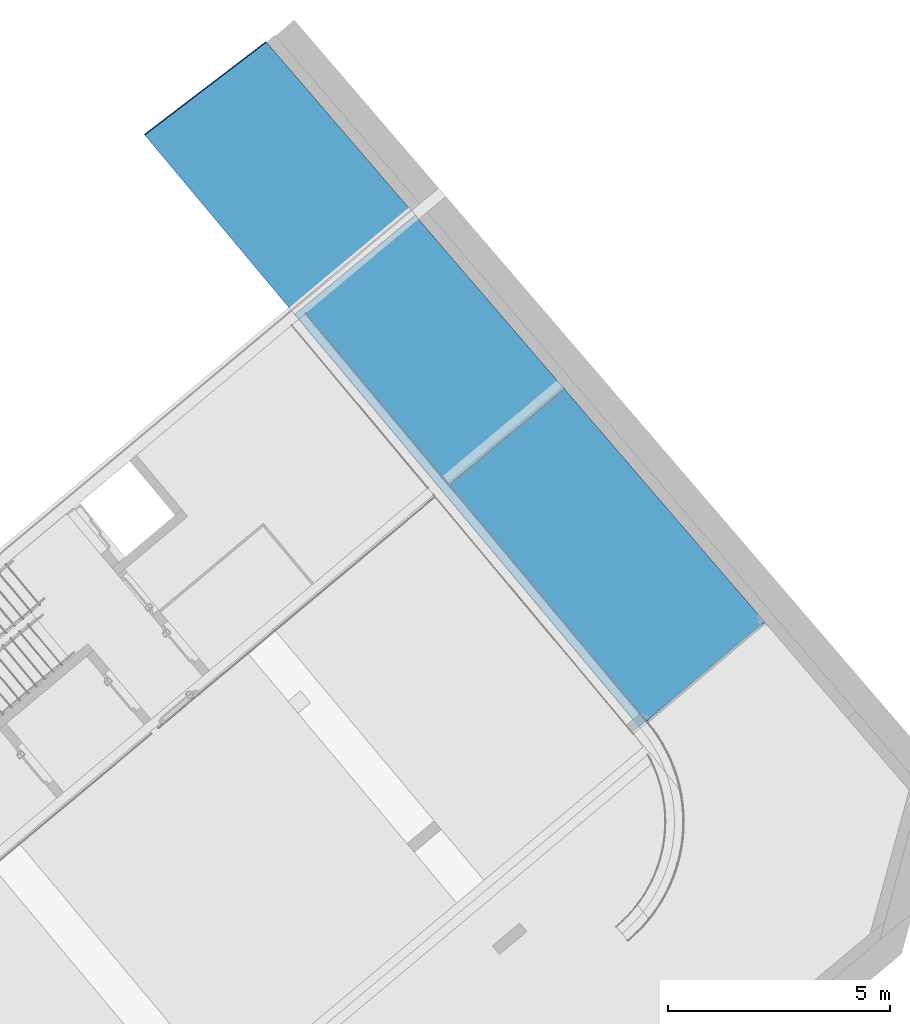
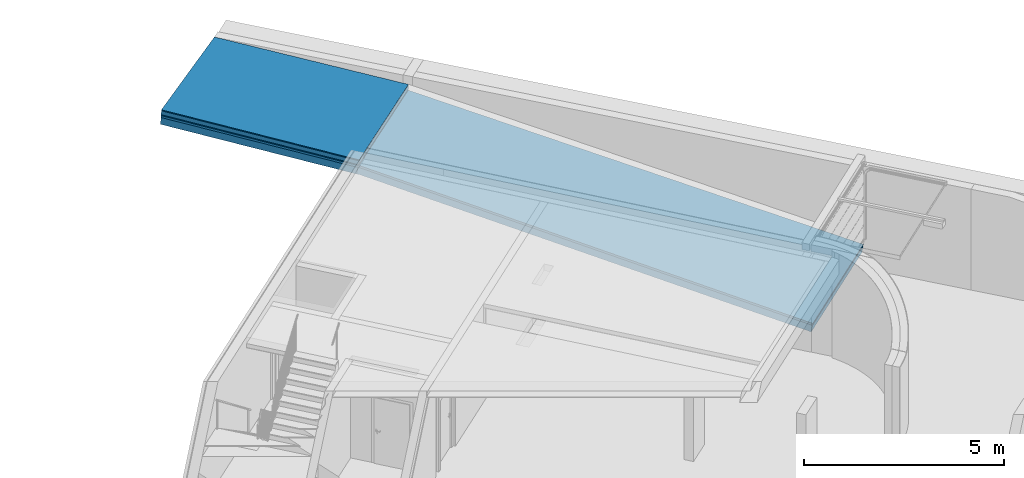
# One storey, part 13 of 17: 7 building element parts, 2 elements without a shape of their own.
"""IFC4 building model written with IfcOpenShell, lengths in metres."""

from ifc_helpers import new_model, entity, si_unit, converted_unit, derived_unit, direction, frame, origin_with_axes, place, context, subcontext, project, spatial, polygons, material, type_object, element, aggregate, save


model = new_model("IFC4")

# Units and contexts
model_context = context("Model", 3, precision=1e-05, world=origin_with_axes(), true_north=direction((0.0, 1.0)))
body_context = subcontext(model_context, "Body", "Model", "MODEL_VIEW")
ifc_project = project(units=[si_unit("LENGTHUNIT", "METRE"), si_unit("AREAUNIT", "SQUARE_METRE"), si_unit("VOLUMEUNIT", "CUBIC_METRE"), converted_unit("PLANEANGLEUNIT", "DEGREE", entity("IfcPlaneAngleMeasure", 0.0174532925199), si_unit("PLANEANGLEUNIT", "RADIAN"), dimensions=[0, 0, 0, 0, 0, 0, 0]), converted_unit("TIMEUNIT", "Year", entity("IfcTimeMeasure", 31556926.0), si_unit("TIMEUNIT", "SECOND"), dimensions=[0, 0, 1, 0, 0, 0, 0]), si_unit("MASSUNIT", "GRAM", prefix="KILO"), si_unit("THERMODYNAMICTEMPERATUREUNIT", "DEGREE_CELSIUS"), si_unit("LUMINOUSINTENSITYUNIT", "LUMEN"), si_unit("ENERGYUNIT", "JOULE", prefix="MEGA"), derived_unit("THERMALCONDUCTANCEUNIT", [(si_unit("POWERUNIT", "WATT"), 1), (si_unit("LENGTHUNIT", "METRE"), -1), (si_unit("THERMODYNAMICTEMPERATUREUNIT", "KELVIN"), -1)]), derived_unit("SPECIFICHEATCAPACITYUNIT", [(si_unit("ENERGYUNIT", "JOULE"), 1), (si_unit("MASSUNIT", "GRAM", prefix="KILO"), -1), (si_unit("THERMODYNAMICTEMPERATUREUNIT", "KELVIN"), -1)]), derived_unit("MASSDENSITYUNIT", [(si_unit("MASSUNIT", "GRAM", prefix="KILO"), 1), (si_unit("VOLUMEUNIT", "CUBIC_METRE"), -1)])], contexts=[model_context])

# Site, building, storey
site_placement = place(None, frame((-0.00153261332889, -0.00661245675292, 0.0), z_axis=(0.0, 0.0, 1.0), x_axis=(1.0, 0.0, 0.0)))
site = spatial("IfcSite", under=ifc_project, at=site_placement, Name="Site", CompositionType="ELEMENT")
building_placement = place(site_placement, origin_with_axes())
building = spatial("IfcBuilding", under=site, at=building_placement, Name="Building", CompositionType="ELEMENT")
storey_placement = place(building_placement, frame((0.0, 0.0, -3.3), z_axis=(0.0, 0.0, 1.0), x_axis=(1.0, 0.0, 0.0)))
storey = spatial("IfcBuildingStorey", under=building, at=storey_placement, Name="UG1", CompositionType="ELEMENT", Elevation=-3.3)

# Ramp, building element parts
ramp_type = type_object("IfcRampType", Name="Rampe Neu 450", PredefinedType="NOTDEFINED")
ramp_1_placement = place(storey_placement, frame((5.32656928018, 30.3558567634, 2.37561258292), z_axis=(0.0, 0.0, 1.0), x_axis=(0.772442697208, 0.635084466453, 0.0)))
ramp_1 = element("IfcRamp", 1, at=ramp_1_placement, inside=storey, type_object=ramp_type, Name="Dach-001", PredefinedType="NOTDEFINED")
ifc_material_1 = material(Name="XPS")
building_element_part_1_placement = place(ramp_1_placement, origin_with_axes())
building_element_part_1 = element("IfcBuildingElementPart", 2, at=building_element_part_1_placement, material=ifc_material_1, Name="XPS", PredefinedType="NOTDEFINED", context=body_context, shape_type="Tessellation", body=[
    polygons([(3.51367081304, 0.0281581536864, 0.277825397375), (3.51364023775, 0.0375442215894, 0.218564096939), (3.51420774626, 0.0118246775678, 0.214490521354), (3.51409766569, 0.00881314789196, 0.274761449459), (3.51377557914, 0.0281581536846, 0.277825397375), (3.51377557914, 0.037544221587, 0.218564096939), (3.77682829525, -12.0567884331, -1.69699001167), (0.0964259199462, -12.0858005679, -1.70158508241), (-7.17183219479e-08, 0.0375442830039, 0.218564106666), (0.000209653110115, 0.0375442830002, 0.218564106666), (0.000420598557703, 0.0115065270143, 0.214440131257), (0.000310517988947, 0.00849499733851, 0.274711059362), (0.000151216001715, 0.0281582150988, 0.277825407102), (-7.17183255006e-08, 0.0281582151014, 0.277825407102), (0.0964259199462, -12.0951866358, -1.64232378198), (3.77682829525, -12.066174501, -1.63772871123)], [[[1, 2, 3, 4]], [[2, 1, 5, 6]], [[3, 2, 6, 7, 8, 9, 10, 11]], [[4, 3, 11, 12]], [[12, 13, 14, 15, 16, 5, 1, 4]], [[7, 6, 5, 16]], [[8, 7, 16, 15]], [[9, 8, 15, 14]], [[10, 9, 14, 13]], [[11, 10, 13, 12]]], closed=True),
])
ifc_material_2 = material(Name="Stahlbeton Decke")
building_element_part_2_placement = place(ramp_1_placement, origin_with_axes())
building_element_part_2 = element("IfcBuildingElementPart", 3, at=building_element_part_2_placement, material=ifc_material_2, Name="Stahlbeton Decke", PredefinedType="NOTDEFINED", context=body_context, shape_type="Tessellation", body=[
    polygons([(3.51420774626, 0.0118246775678, 0.214490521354), (3.51364023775, 0.0375442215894, 0.218564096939), (3.51353322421, 0.0703954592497, 0.0111495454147), (3.51459302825, 0.0223650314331, 0.00354227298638), (0.000420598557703, 0.0115065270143, 0.214440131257), (0.000209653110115, 0.0375442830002, 0.218564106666), (-7.17183219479e-08, 0.0375442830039, 0.218564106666), (0.0964259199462, -12.0858005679, -1.70158508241), (3.77682829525, -12.0567884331, -1.69699001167), (3.51377557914, 0.037544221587, 0.218564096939), (3.51377557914, 0.0703954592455, 0.011149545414), (0.000805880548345, 0.0220468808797, 0.00349188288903), (3.77682829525, -12.0239371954, -1.90440456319), (0.0964259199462, -12.0529493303, -1.90899963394), (-7.17183219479e-08, 0.0703955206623, 0.0111495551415), (0.000414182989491, 0.0703955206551, 0.0111495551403)], [[[1, 2, 3, 4]], [[1, 5, 6, 7, 8, 9, 10, 2]], [[11, 3, 2, 10]], [[12, 4, 3, 11, 13, 14, 15, 16]], [[5, 1, 4, 12]], [[5, 12, 16, 6]], [[6, 16, 15, 7]], [[8, 7, 15, 14]], [[9, 8, 14, 13]], [[10, 9, 13, 11]]], closed=True),
])
aggregate(ramp_1, [building_element_part_1, building_element_part_2])

ramp_2_placement = place(storey_placement, frame((1.94447080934, 34.4041497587, 2.63327259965), z_axis=(0.0, 0.0, 1.0), x_axis=(0.795125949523, 0.606444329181, 0.0)))
ramp_2 = element("IfcRamp", 4, at=ramp_2_placement, inside=storey, type_object=ramp_type, Name="Dach-001", PredefinedType="NOTDEFINED")
ifc_material_3 = material(Name="Asphalt")
building_element_part_3_placement = place(ramp_2_placement, origin_with_axes())
building_element_part_3 = element("IfcBuildingElementPart", 5, at=building_element_part_3_placement, material=ifc_material_3, Name="Asphalt", PredefinedType="NOTDEFINED", context=body_context, shape_type="Tessellation", body=[
    polygons([(0.234129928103, -5.26899043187, 0.167728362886), (3.74556037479, -5.14031860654, 0.167778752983), (3.74556037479, -5.14160378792, 0.193482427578), (0.234129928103, -5.26995725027, 0.187064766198), (3.74536069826, -5.13691496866, 0.168318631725), (0.233963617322, -5.26526714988, 0.168318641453), (3.74533169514, -5.13618652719, 0.163715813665), (3.44555025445, 0.00149812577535, 0.420599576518), (3.44555025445, 0.0, 0.450562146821), (0.0, 0.0, 0.450562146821), (0.0, 0.00149812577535, 0.420599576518), (0.233910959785, -5.26353043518, 0.157348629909)], [[[1, 2, 3, 4]], [[5, 2, 1, 6]], [[5, 7, 8, 9, 3, 2]], [[4, 3, 9, 10]], [[6, 1, 4, 10, 11, 12]], [[7, 5, 6, 12]], [[7, 12, 11, 8]], [[10, 9, 8, 11]]], closed=True),
])
building_element_part_4_placement = place(ramp_2_placement, origin_with_axes())
building_element_part_4 = element("IfcBuildingElementPart", 6, at=building_element_part_4_placement, material=ifc_material_2, Name="Stahlbeton Decke", PredefinedType="NOTDEFINED", context=body_context, shape_type="Tessellation", body=[
    polygons([(0.234129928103, -5.26296335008, 0.0471865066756), (3.74556037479, -5.13429152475, 0.0472368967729), (3.74556037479, -5.14010566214, 0.163519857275), (0.234129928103, -5.26845912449, 0.157102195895), (3.74461386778, -5.11815759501, 0.049796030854), (0.233394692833, -5.24650327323, 0.0497960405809), (3.7445805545, -5.11732089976, 0.0445091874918), (3.44555025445, 0.00749062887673, 0.300749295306), (3.44555025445, 0.00149812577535, 0.420599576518), (0.0, 0.00149812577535, 0.420599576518), (0.0, 0.00749062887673, 0.300749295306), (0.23333875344, -5.2446583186, 0.0381423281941)], [[[1, 2, 3, 4]], [[5, 2, 1, 6]], [[5, 7, 8, 9, 3, 2]], [[9, 10, 4, 3]], [[6, 1, 4, 10, 11, 12]], [[7, 5, 6, 12]], [[7, 12, 11, 8]], [[8, 11, 10, 9]]], closed=True),
])
ifc_material_4 = material(Name="Sperrschicht")
building_element_part_5_placement = place(ramp_2_placement, origin_with_axes())
building_element_part_5 = element("IfcBuildingElementPart", 7, at=building_element_part_5_placement, material=ifc_material_4, Name="Sperrschicht", PredefinedType="NOTDEFINED", context=body_context, shape_type="Tessellation", body=[
    polygons([(0.234129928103, -5.26096849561, 0.0072893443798), (0.234129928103, -5.26246662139, 0.0372519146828), (0.0, 0.00749062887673, 0.300749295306), (0.0, 0.00898875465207, 0.270786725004), (3.74556037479, -5.13261503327, 0.0137070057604), (3.74556037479, -5.13411315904, 0.0436695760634), (3.44555025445, 0.00749062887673, 0.300749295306), (3.44555025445, 0.00898875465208, 0.270786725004)], [[[1, 2, 3, 4]], [[5, 6, 2, 1]], [[3, 2, 6, 7]], [[4, 3, 7, 8]], [[4, 8, 5, 1]], [[8, 7, 6, 5]]], closed=True),
])
building_element_part_6_placement = place(ramp_2_placement, origin_with_axes())
building_element_part_6 = element("IfcBuildingElementPart", 8, at=building_element_part_6_placement, material=ifc_material_1, Name="XPS", PredefinedType="NOTDEFINED", context=body_context, shape_type="Tessellation", body=[
    polygons([(0.0, 0.0119850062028, 0.210861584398), (0.234129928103, -5.25797224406, -0.0526357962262), (0.234129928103, -5.26096849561, 0.0072893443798), (0.0, 0.00898875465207, 0.270786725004), (3.44555025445, 0.0119850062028, 0.210861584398), (3.74556037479, -5.12961878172, -0.0462181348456), (3.74556037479, -5.13261503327, 0.0137070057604), (3.44555025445, 0.00898875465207, 0.270786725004)], [[[1, 2, 3, 4]], [[2, 1, 5, 6]], [[2, 6, 7, 3]], [[8, 4, 3, 7]], [[5, 1, 4, 8]], [[6, 5, 8, 7]]], closed=True),
])
building_element_part_7_placement = place(ramp_2_placement, origin_with_axes())
building_element_part_7 = element("IfcBuildingElementPart", 9, at=building_element_part_7_placement, material=ifc_material_2, Name="Stahlbeton Decke", PredefinedType="NOTDEFINED", context=body_context, shape_type="Tessellation", body=[
    polygons([(0.0, 0.0119850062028, 0.210861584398), (0.0, 0.0224718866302, 0.00112359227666), (0.234129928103, -5.24748536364, -0.262373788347), (0.234129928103, -5.25797224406, -0.0526357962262), (3.44555025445, 0.0119850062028, 0.210861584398), (3.44555025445, 0.0224718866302, 0.00112359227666), (3.74556037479, -5.11913190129, -0.255956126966), (3.74556037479, -5.12961878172, -0.0462181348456)], [[[1, 2, 3, 4]], [[5, 6, 2, 1]], [[3, 2, 6, 7]], [[4, 3, 7, 8]], [[5, 1, 4, 8]], [[8, 7, 6, 5]]], closed=True),
])
aggregate(ramp_2, [building_element_part_3, building_element_part_4, building_element_part_5, building_element_part_6, building_element_part_7])

save(model, "model.ifc")
